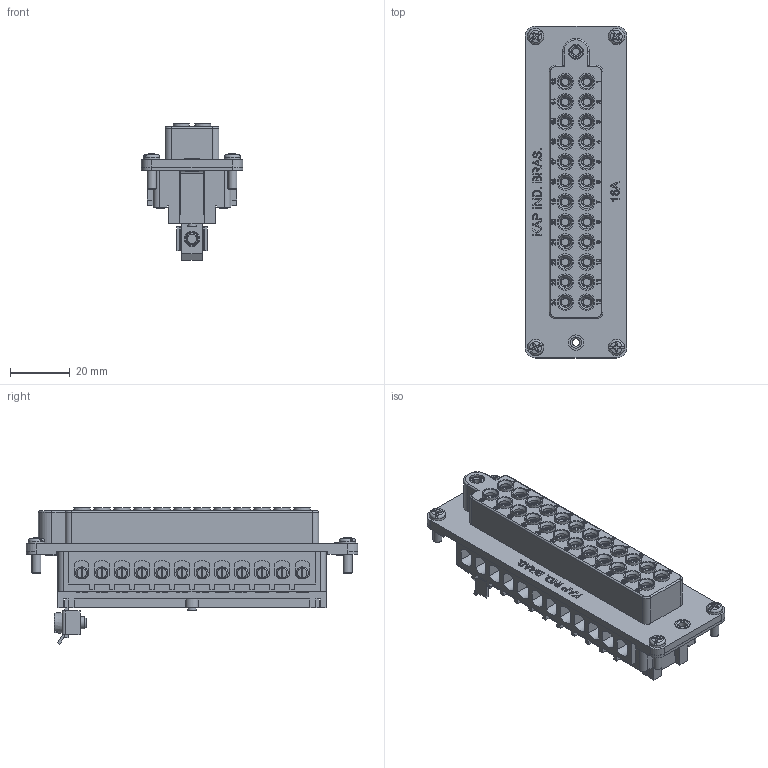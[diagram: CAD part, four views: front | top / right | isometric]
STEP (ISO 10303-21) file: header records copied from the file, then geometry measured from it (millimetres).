
FILE_DESCRIPTION((''),'2;1');
FILE_NAME('E:\WorkFolder\Serie\PB\STEP\kp_pb_pb24f_step.stp','2010-08-02T13:37:04',('andre'),(''),'Autodesk Inventor 10','Autodesk Inventor 10','');
FILE_SCHEMA(('AUTOMOTIVE_DESIGN { 1 0 10303 214 1 1 1 1 }'));
Length unit declared in the file: millimetre
Products named in the file (1): PB24F
Bounding box: 34 x 111 x 45.65 mm (x, y, z)
Volume: 60011.8 mm3; surface area: 29437.5 mm2
Topology: 1 solids, 1 shells, 3490 faces, 8807 edges, 5779 vertices
Faces by surface type: plane 2075, bspline 632, cone 538, cylinder 222, torus 15, sphere 8
Full cylindrical faces by diameter (mm): 2 x1, 2.483 x1, 3 x29, 3.5 x24, 4 x25, 4.2 x2, 4.6 x25, 5 x1, 5.5 x24
Entity records: 115220 total; most frequent: CARTESIAN_POINT 35641, ORIENTED_EDGE 17096, DIRECTION 14591, EDGE_CURVE 8548, VERTEX_POINT 5701, VECTOR 5055, LINE 5055, AXIS2_PLACEMENT_3D 4768
